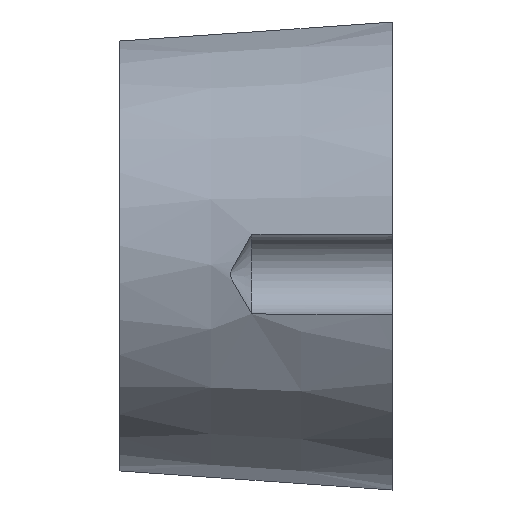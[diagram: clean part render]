
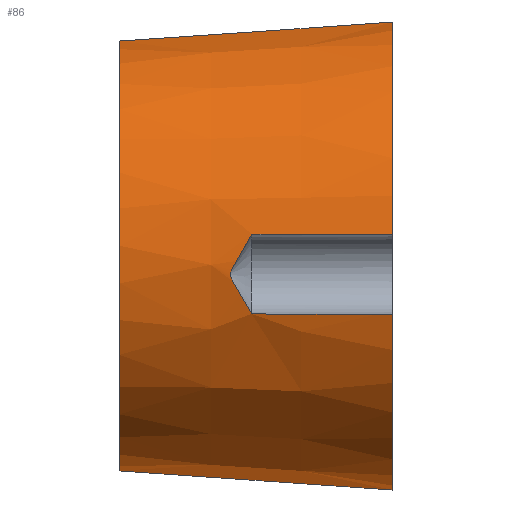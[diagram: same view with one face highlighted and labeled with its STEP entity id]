
A CAD part, top view. The second image highlights one B-rep face of the part: STEP entity #86.
In plain terms, the highlighted conical face has half-angle 4 degrees and reference radius 18.42 mm.
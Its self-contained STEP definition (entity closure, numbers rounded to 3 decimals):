
#86 = ADVANCED_FACE( '', ( #120 ), #121, .T. );
#120 = FACE_OUTER_BOUND( '', #164, .T. );
#121 = CONICAL_SURFACE( '', #165, 18.42, 0.07 );
#164 = EDGE_LOOP( '', ( #265, #266, #267, #268, #269, #270, #271, #272, #273, #274 ) );
#165 = AXIS2_PLACEMENT_3D( '', #275, #276, #277 );
#265 = ORIENTED_EDGE( '', *, *, #381, .T. );
#266 = ORIENTED_EDGE( '', *, *, #386, .T. );
#267 = ORIENTED_EDGE( '', *, *, #403, .F. );
#268 = ORIENTED_EDGE( '', *, *, #384, .T. );
#269 = ORIENTED_EDGE( '', *, *, #405, .T. );
#270 = ORIENTED_EDGE( '', *, *, #406, .T. );
#271 = ORIENTED_EDGE( '', *, *, #407, .T. );
#272 = ORIENTED_EDGE( '', *, *, #408, .F. );
#273 = ORIENTED_EDGE( '', *, *, #409, .T. );
#274 = ORIENTED_EDGE( '', *, *, #410, .T. );
#275 = CARTESIAN_POINT( '', ( -11.15, 0., 0. ) );
#276 = DIRECTION( '', ( 1., 0., 0. ) );
#277 = DIRECTION( '', ( 0., 1., 0. ) );
#381 = EDGE_CURVE( '', #451, #449, #452, .T. );
#384 = EDGE_CURVE( '', #457, #454, #458, .T. );
#386 = EDGE_CURVE( '', #449, #459, #461, .T. );
#403 = EDGE_CURVE( '', #457, #459, #488, .T. );
#405 = EDGE_CURVE( '', #454, #489, #491, .T. );
#406 = EDGE_CURVE( '', #489, #492, #493, .T. );
#407 = EDGE_CURVE( '', #492, #494, #495, .T. );
#408 = EDGE_CURVE( '', #496, #494, #497, .T. );
#409 = EDGE_CURVE( '', #496, #498, #499, .T. );
#410 = EDGE_CURVE( '', #498, #451, #500, .T. );
#449 = VERTEX_POINT( '', #561 );
#451 = VERTEX_POINT( '', #564 );
#452 = B_SPLINE_CURVE_WITH_KNOTS( '', 3, ( #565, #566, #567, #568, #569, #570 ), .UNSPECIFIED., .F., .F., ( 4, 2, 4 ), ( 0.988, 6.344, 11.701 ), .UNSPECIFIED. );
#454 = VERTEX_POINT( '', #572 );
#457 = VERTEX_POINT( '', #576 );
#458 = B_SPLINE_CURVE_WITH_KNOTS( '', 3, ( #577, #578, #579, #580, #581, #582 ), .UNSPECIFIED., .F., .F., ( 4, 2, 4 ), ( 0.988, 6.344, 11.7 ), .UNSPECIFIED. );
#459 = VERTEX_POINT( '', #583 );
#461 = B_SPLINE_CURVE_WITH_KNOTS( '', 3, ( #585, #586, #587, #588, #589, #590 ), .UNSPECIFIED., .F., .F., ( 4, 2, 4 ), ( 0.988, 6.344, 11.701 ), .UNSPECIFIED. );
#488 = B_SPLINE_CURVE_WITH_KNOTS( '', 3, ( #673, #674, #675, #676, #677, #678, #679, #680, #681, #682, #683, #684, #685, #686, #687, #688, #689, #690, #691, #692, #693, #694, #695, #696, #697, #698 ), .UNSPECIFIED., .F., .F., ( 4, 2, 2, 2, 2, 2, 2, 2, 2, 2, 2, 2, 4 ), ( 1.869, 2.052, 3.821, 4.705, 5.147, 5.368, 5.589, 5.811, 6.032, 6.474, 7.358, 9.127, 9.31 ), .UNSPECIFIED. );
#489 = VERTEX_POINT( '', #699 );
#491 = B_SPLINE_CURVE_WITH_KNOTS( '', 3, ( #701, #702, #703, #704, #705, #706 ), .UNSPECIFIED., .F., .F., ( 4, 2, 4 ), ( 0.988, 6.344, 11.7 ), .UNSPECIFIED. );
#492 = VERTEX_POINT( '', #707 );
#493 = CIRCLE( '', #708, 19.2 );
#494 = VERTEX_POINT( '', #709 );
#495 = B_SPLINE_CURVE_WITH_KNOTS( '', 3, ( #710, #711, #712, #713, #714, #715, #716, #717, #718, #719 ), .UNSPECIFIED., .F., .F., ( 4, 2, 2, 2, 4 ), ( 0.989, 6.633, 13.266, 18.053, 21.856 ), .UNSPECIFIED. );
#496 = VERTEX_POINT( '', #720 );
#497 = CIRCLE( '', #721, 17.641 );
#498 = VERTEX_POINT( '', #722 );
#499 = ( B_SPLINE_CURVE( 2, ( #724, #725, #726 ), .UNSPECIFIED., .F., .F. )B_SPLINE_CURVE_WITH_KNOTS( ( 3, 3 ), ( 0., 22.355 ), .UNSPECIFIED. )RATIONAL_B_SPLINE_CURVE( ( 1., 1.001, 1. ) )BOUNDED_CURVE(  )REPRESENTATION_ITEM( '' )GEOMETRIC_REPRESENTATION_ITEM(  )CURVE(  ) );
#500 = CIRCLE( '', #733, 19.2 );
#561 = CARTESIAN_POINT( '', ( -1.408, -4.909, 18.46 ) );
#564 = CARTESIAN_POINT( '', ( 0., -4.907, 18.562 ) );
#565 = CARTESIAN_POINT( '', ( 0., -4.907, 18.562 ) );
#566 = CARTESIAN_POINT( '', ( -1.832, -4.911, 18.429 ) );
#567 = CARTESIAN_POINT( '', ( -3.791, -4.907, 18.288 ) );
#568 = CARTESIAN_POINT( '', ( -7.709, -4.881, 18.011 ) );
#569 = CARTESIAN_POINT( '', ( -9.668, -4.859, 17.875 ) );
#570 = CARTESIAN_POINT( '', ( -11.5, -4.832, 17.75 ) );
#572 = CARTESIAN_POINT( '', ( -9.477, 1.691, 18.46 ) );
#576 = CARTESIAN_POINT( '', ( -11.5, 1.688, 18.318 ) );
#577 = CARTESIAN_POINT( '', ( -11.5, 1.688, 18.318 ) );
#578 = CARTESIAN_POINT( '', ( -9.668, 1.694, 18.446 ) );
#579 = CARTESIAN_POINT( '', ( -7.709, 1.692, 18.584 ) );
#580 = CARTESIAN_POINT( '', ( -3.791, 1.67, 18.861 ) );
#581 = CARTESIAN_POINT( '', ( -1.832, 1.649, 19.001 ) );
#582 = CARTESIAN_POINT( '', ( 0., 1.622, 19.131 ) );
#583 = CARTESIAN_POINT( '', ( -11.5, -4.832, 17.75 ) );
#585 = CARTESIAN_POINT( '', ( 0., -4.907, 18.562 ) );
#586 = CARTESIAN_POINT( '', ( -1.832, -4.911, 18.429 ) );
#587 = CARTESIAN_POINT( '', ( -3.791, -4.907, 18.288 ) );
#588 = CARTESIAN_POINT( '', ( -7.709, -4.881, 18.011 ) );
#589 = CARTESIAN_POINT( '', ( -9.668, -4.859, 17.875 ) );
#590 = CARTESIAN_POINT( '', ( -11.5, -4.832, 17.75 ) );
#673 = CARTESIAN_POINT( '', ( -11.5, 1.688, 18.318 ) );
#674 = CARTESIAN_POINT( '', ( -11.531, 1.634, 18.321 ) );
#675 = CARTESIAN_POINT( '', ( -11.562, 1.58, 18.324 ) );
#676 = CARTESIAN_POINT( '', ( -11.888, 1.017, 18.348 ) );
#677 = CARTESIAN_POINT( '', ( -12.201, 0.475, 18.348 ) );
#678 = CARTESIAN_POINT( '', ( -12.655, -0.318, 18.314 ) );
#679 = CARTESIAN_POINT( '', ( -12.803, -0.576, 18.297 ) );
#680 = CARTESIAN_POINT( '', ( -13.011, -0.952, 18.266 ) );
#681 = CARTESIAN_POINT( '', ( -13.077, -1.075, 18.254 ) );
#682 = CARTESIAN_POINT( '', ( -13.166, -1.259, 18.236 ) );
#683 = CARTESIAN_POINT( '', ( -13.194, -1.321, 18.23 ) );
#684 = CARTESIAN_POINT( '', ( -13.239, -1.448, 18.217 ) );
#685 = CARTESIAN_POINT( '', ( -13.257, -1.513, 18.21 ) );
#686 = CARTESIAN_POINT( '', ( -13.257, -1.66, 18.198 ) );
#687 = CARTESIAN_POINT( '', ( -13.239, -1.726, 18.193 ) );
#688 = CARTESIAN_POINT( '', ( -13.194, -1.853, 18.183 ) );
#689 = CARTESIAN_POINT( '', ( -13.166, -1.915, 18.179 ) );
#690 = CARTESIAN_POINT( '', ( -13.077, -2.099, 18.165 ) );
#691 = CARTESIAN_POINT( '', ( -13.011, -2.222, 18.155 ) );
#692 = CARTESIAN_POINT( '', ( -12.803, -2.598, 18.121 ) );
#693 = CARTESIAN_POINT( '', ( -12.655, -2.855, 18.093 ) );
#694 = CARTESIAN_POINT( '', ( -12.201, -3.642, 17.989 ) );
#695 = CARTESIAN_POINT( '', ( -11.888, -4.176, 17.895 ) );
#696 = CARTESIAN_POINT( '', ( -11.562, -4.726, 17.774 ) );
#697 = CARTESIAN_POINT( '', ( -11.531, -4.778, 17.762 ) );
#698 = CARTESIAN_POINT( '', ( -11.5, -4.832, 17.75 ) );
#699 = CARTESIAN_POINT( '', ( 0., 1.622, 19.131 ) );
#701 = CARTESIAN_POINT( '', ( -11.5, 1.688, 18.318 ) );
#702 = CARTESIAN_POINT( '', ( -9.668, 1.694, 18.446 ) );
#703 = CARTESIAN_POINT( '', ( -7.709, 1.692, 18.584 ) );
#704 = CARTESIAN_POINT( '', ( -3.791, 1.67, 18.861 ) );
#705 = CARTESIAN_POINT( '', ( -1.832, 1.649, 19.001 ) );
#706 = CARTESIAN_POINT( '', ( 0., 1.622, 19.131 ) );
#707 = CARTESIAN_POINT( '', ( 0., 19.039, 2.483 ) );
#708 = AXIS2_PLACEMENT_3D( '', #832, #833, #834 );
#709 = CARTESIAN_POINT( '', ( -22.3, 17.483, 2.355 ) );
#710 = CARTESIAN_POINT( '', ( 0., 19.039, 2.483 ) );
#711 = CARTESIAN_POINT( '', ( -1.928, 18.898, 2.516 ) );
#712 = CARTESIAN_POINT( '', ( -3.992, 18.75, 2.538 ) );
#713 = CARTESIAN_POINT( '', ( -8.482, 18.431, 2.556 ) );
#714 = CARTESIAN_POINT( '', ( -10.908, 18.261, 2.547 ) );
#715 = CARTESIAN_POINT( '', ( -14.705, 17.998, 2.51 ) );
#716 = CARTESIAN_POINT( '', ( -16.456, 17.877, 2.486 ) );
#717 = CARTESIAN_POINT( '', ( -19.598, 17.664, 2.425 ) );
#718 = CARTESIAN_POINT( '', ( -20.989, 17.57, 2.392 ) );
#719 = CARTESIAN_POINT( '', ( -22.3, 17.483, 2.355 ) );
#720 = CARTESIAN_POINT( '', ( -22.3, -17.625, 0.75 ) );
#721 = AXIS2_PLACEMENT_3D( '', #835, #836, #837 );
#722 = CARTESIAN_POINT( '', ( 0., -19.185, 0.75 ) );
#724 = CARTESIAN_POINT( '', ( -22.3, -17.625, 0.75 ) );
#725 = CARTESIAN_POINT( '', ( -11.623, -18.372, 0.75 ) );
#726 = CARTESIAN_POINT( '', ( 0., -19.185, 0.75 ) );
#733 = AXIS2_PLACEMENT_3D( '', #838, #839, #840 );
#832 = CARTESIAN_POINT( '', ( 0., 0., 0. ) );
#833 = DIRECTION( '', ( -1., 0., 0. ) );
#834 = DIRECTION( '', ( 0., 1., 0. ) );
#835 = CARTESIAN_POINT( '', ( -22.3, 0., 0. ) );
#836 = DIRECTION( '', ( -1., 0., 0. ) );
#837 = DIRECTION( '', ( 0., 1., 0. ) );
#838 = CARTESIAN_POINT( '', ( 0., 0., 0. ) );
#839 = DIRECTION( '', ( -1., 0., 0. ) );
#840 = DIRECTION( '', ( 0., 1., 0. ) );
